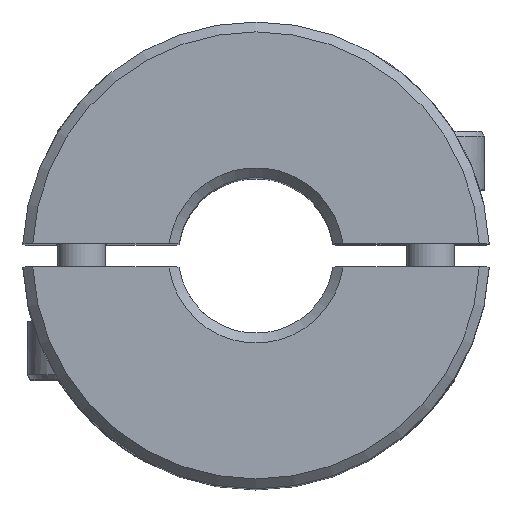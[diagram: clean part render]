
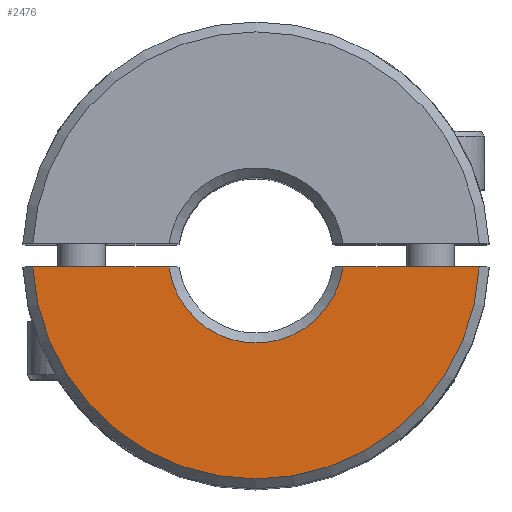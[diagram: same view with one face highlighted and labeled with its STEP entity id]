
A CAD part, top view. The second image highlights one B-rep face of the part: STEP entity #2476.
In plain terms, the highlighted planar face has unit normal (0, 0, 1).
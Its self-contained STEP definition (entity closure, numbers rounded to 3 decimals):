
#561=DIRECTION('',(1.,0.,0.));
#562=VECTOR('',#561,7.008);
#563=CARTESIAN_POINT('',(-11.477,-0.595,17.5));
#564=LINE('',#563,#562);
#580=CARTESIAN_POINT('',(0.,0.,17.5));
#581=DIRECTION('',(0.,0.,-1.));
#582=DIRECTION('',(0.991,-0.132,0.));
#583=AXIS2_PLACEMENT_3D('',#580,#581,#582);
#603=DIRECTION('',(1.,0.,0.));
#604=VECTOR('',#603,7.008);
#605=CARTESIAN_POINT('',(4.469,-0.595,17.5));
#606=LINE('',#605,#604);
#607=CARTESIAN_POINT('',(4.469,-0.595,17.5));
#678=CARTESIAN_POINT('',(0.,0.,17.5));
#679=DIRECTION('',(0.,0.,1.));
#680=DIRECTION('',(-0.999,-0.052,0.));
#681=AXIS2_PLACEMENT_3D('',#678,#679,#680);
#1637=CARTESIAN_POINT('',(-11.477,-0.595,17.5));
#1638=CARTESIAN_POINT('',(-4.469,-0.595,17.5));
#1639=VERTEX_POINT('',#1637);
#1640=VERTEX_POINT('',#1638);
#1649=VERTEX_POINT('',#607);
#1654=CARTESIAN_POINT('',(11.477,-0.595,17.5));
#1655=VERTEX_POINT('',#1654);
#2465=CARTESIAN_POINT('',(0.,0.,17.5));
#2466=DIRECTION('',(0.,0.,1.));
#2467=DIRECTION('',(-1.,0.,0.));
#2468=AXIS2_PLACEMENT_3D('',#2465,#2466,#2467);
#2469=PLANE('',#2468);
#2470=ORIENTED_EDGE('',*,*,#2321,.F.);
#2471=ORIENTED_EDGE('',*,*,#2348,.T.);
#2472=ORIENTED_EDGE('',*,*,#2452,.F.);
#2473=ORIENTED_EDGE('',*,*,#2286,.T.);
#2474=EDGE_LOOP('',(#2470,#2471,#2472,#2473));
#2475=FACE_OUTER_BOUND('',#2474,.F.);
#584=CIRCLE('',#583,4.508);
#682=CIRCLE('',#681,11.492);
#2286=EDGE_CURVE('',#1639,#1640,#564,.T.);
#2321=EDGE_CURVE('',#1649,#1640,#584,.T.);
#2348=EDGE_CURVE('',#1649,#1655,#606,.T.);
#2452=EDGE_CURVE('',#1639,#1655,#682,.T.);
#2476=ADVANCED_FACE('',(#2475),#2469,.T.);
